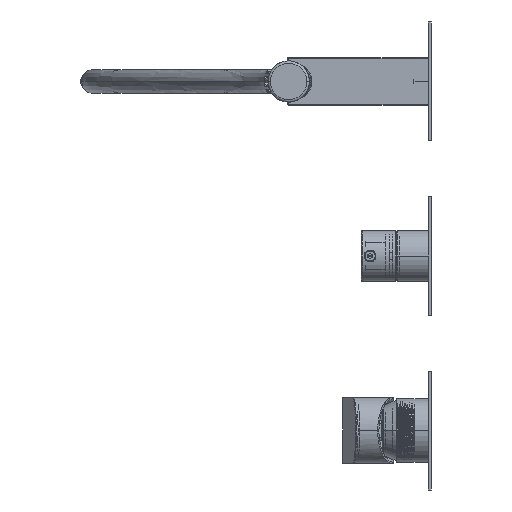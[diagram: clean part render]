
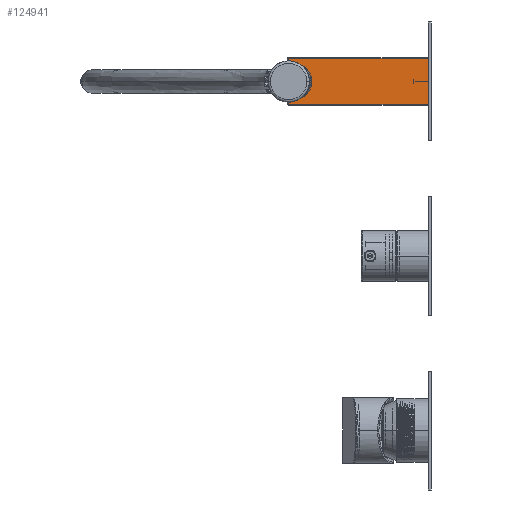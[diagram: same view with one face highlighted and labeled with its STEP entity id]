
A CAD part, left-side view. The second image highlights one B-rep face of the part: STEP entity #124941.
In plain terms, the highlighted planar face has unit normal (-1, 0, 0).
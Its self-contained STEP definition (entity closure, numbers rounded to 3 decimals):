
#103219=CARTESIAN_POINT('',(-11.,165.,110.));
#103220=DIRECTION('',(1.,0.,0.));
#103221=DIRECTION('',(0.,-0.555,-0.832));
#103222=AXIS2_PLACEMENT_3D('',#103219,#103220,#103221);
#103224=CARTESIAN_POINT('',(-11.,162.,110.));
#103225=DIRECTION('',(1.,0.,0.));
#103226=DIRECTION('',(0.,-0.363,0.932));
#103227=AXIS2_PLACEMENT_3D('',#103224,#103225,#103226);
#103229=CARTESIAN_POINT('',(-11.,165.,110.));
#103230=DIRECTION('',(1.,0.,0.));
#103231=DIRECTION('',(0.,0.008,1.));
#103232=AXIS2_PLACEMENT_3D('',#103229,#103230,#103231);
#103234=DIRECTION('',(0.,0.,-1.));
#103235=VECTOR('',#103234,1.5);
#103236=CARTESIAN_POINT('',(-11.,165.1,124.5));
#103237=LINE('',#103236,#103235);
#103238=DIRECTION('',(0.,-1.,0.));
#103239=VECTOR('',#103238,88.1);
#103240=CARTESIAN_POINT('',(-11.,165.1,124.5));
#103241=LINE('',#103240,#103239);
#103242=DIRECTION('',(0.,0.,1.));
#103243=VECTOR('',#103242,29.);
#103244=CARTESIAN_POINT('',(-11.,77.,95.5));
#103245=LINE('',#103244,#103243);
#103246=DIRECTION('',(0.,1.,0.));
#103247=VECTOR('',#103246,88.109);
#103248=CARTESIAN_POINT('',(-11.,77.,95.5));
#103249=LINE('',#103248,#103247);
#103250=DIRECTION('',(0.,0.,-1.));
#103251=VECTOR('',#103250,1.5);
#103252=CARTESIAN_POINT('',(-11.,165.109,97.));
#103253=LINE('',#103252,#103251);
#116729=CARTESIAN_POINT('',(-11.,165.109,95.5));
#116731=VERTEX_POINT('',#116729);
#116763=CARTESIAN_POINT('',(-11.,165.1,124.5));
#116764=VERTEX_POINT('',#116763);
#116815=CARTESIAN_POINT('',(-11.,77.,95.5));
#116816=CARTESIAN_POINT('',(-11.,77.,124.5));
#116817=VERTEX_POINT('',#116815);
#116818=VERTEX_POINT('',#116816);
#117537=CARTESIAN_POINT('',(-11.,157.784,99.187));
#117538=CARTESIAN_POINT('',(-11.,165.109,97.));
#117539=VERTEX_POINT('',#117537);
#117540=VERTEX_POINT('',#117538);
#117541=CARTESIAN_POINT('',(-11.,165.1,123.));
#117542=CARTESIAN_POINT('',(-11.,157.784,120.813));
#117543=VERTEX_POINT('',#117541);
#117544=VERTEX_POINT('',#117542);
#124922=CARTESIAN_POINT('',(-11.,77.,125.));
#124923=DIRECTION('',(1.,0.,0.));
#124924=DIRECTION('',(0.,1.,0.));
#124925=AXIS2_PLACEMENT_3D('',#124922,#124923,#124924);
#124926=PLANE('',#124925);
#124927=ORIENTED_EDGE('',*,*,#117875,.F.);
#124929=ORIENTED_EDGE('',*,*,#124928,.F.);
#124930=ORIENTED_EDGE('',*,*,#117983,.F.);
#124932=ORIENTED_EDGE('',*,*,#124931,.F.);
#124933=ORIENTED_EDGE('',*,*,#124914,.T.);
#124934=ORIENTED_EDGE('',*,*,#118300,.F.);
#124936=ORIENTED_EDGE('',*,*,#124935,.T.);
#124938=ORIENTED_EDGE('',*,*,#124937,.F.);
#124939=EDGE_LOOP('',(#124927,#124929,#124930,#124932,#124933,#124934,#124936,
#124938));
#124940=FACE_OUTER_BOUND('',#124939,.F.);
#124941=ADVANCED_FACE('',(#124940),#124926,.F.);
#103223=CIRCLE('',#103222,13.);
#103228=CIRCLE('',#103227,11.606);
#103233=CIRCLE('',#103232,13.);
#117875=EDGE_CURVE('',#117539,#117540,#103223,.T.);
#117983=EDGE_CURVE('',#117543,#117544,#103233,.T.);
#118300=EDGE_CURVE('',#116817,#116818,#103245,.T.);
#124914=EDGE_CURVE('',#116764,#116818,#103241,.T.);
#124928=EDGE_CURVE('',#117544,#117539,#103228,.T.);
#124931=EDGE_CURVE('',#116764,#117543,#103237,.T.);
#124935=EDGE_CURVE('',#116817,#116731,#103249,.T.);
#124937=EDGE_CURVE('',#117540,#116731,#103253,.T.);
